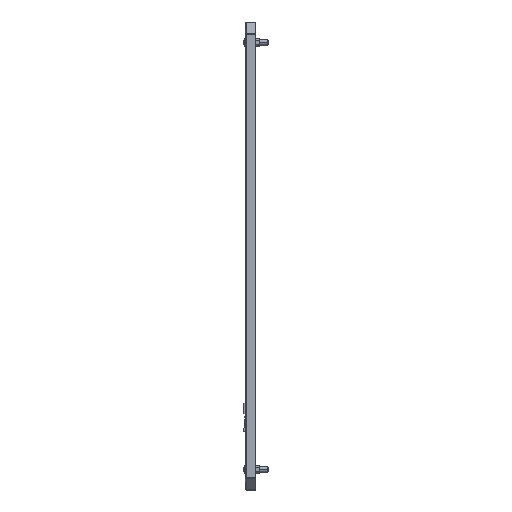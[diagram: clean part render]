
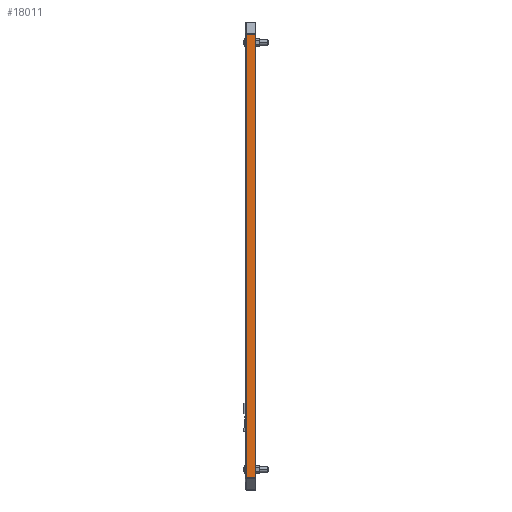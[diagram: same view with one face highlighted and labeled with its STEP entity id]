
A CAD part, left-side view. The second image highlights one B-rep face of the part: STEP entity #18011.
In plain terms, the highlighted planar face has unit normal (-1, 0, 0).
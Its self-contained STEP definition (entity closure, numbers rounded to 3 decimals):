
#3510 = ORIENTED_EDGE ( 'NONE', *, *, #25646, .F. ) ;
#3512 = ORIENTED_EDGE ( 'NONE', *, *, #25642, .F. ) ;
#3514 = ORIENTED_EDGE ( 'NONE', *, *, #25650, .T. ) ;
#3516 = ORIENTED_EDGE ( 'NONE', *, *, #25649, .F. ) ;
#4319 = VERTEX_POINT ( 'NONE', #39044 ) ;
#9613 = VECTOR ( 'NONE', #23293, 1000. ) ;
#9617 = VECTOR ( 'NONE', #23317, 1000. ) ;
#9620 = VECTOR ( 'NONE', #23335, 1000. ) ;
#9621 = VECTOR ( 'NONE', #23341, 1000. ) ;
#17102 = CARTESIAN_POINT ( 'NONE',  ( -300., -18., -379.395 ) ) ;
#17125 = CARTESIAN_POINT ( 'NONE',  ( -300., -2.4, -379.395 ) ) ;
#17178 = CARTESIAN_POINT ( 'NONE',  ( -300., -2.4, 379.395 ) ) ;
#18011 = ADVANCED_FACE ( 'NONE', ( #18252 ), #28476, .F. ) ;
#18252 = FACE_OUTER_BOUND ( 'NONE', #38619, .T. ) ;
#18258 = AXIS2_PLACEMENT_3D ( 'NONE', #28477, #28478, #28479 ) ;
#23289 = LINE ( 'NONE', #23291, #9613 ) ;
#23291 = CARTESIAN_POINT ( 'NONE',  ( -300., -2.4, 380. ) ) ;
#23293 = DIRECTION ( 'NONE',  ( 0., 0., 1. ) ) ;
#23313 = LINE ( 'NONE', #23315, #9617 ) ;
#23315 = CARTESIAN_POINT ( 'NONE',  ( -300., -18., 380. ) ) ;
#23317 = DIRECTION ( 'NONE',  ( 0., 0., -1. ) ) ;
#23331 = LINE ( 'NONE', #23333, #9620 ) ;
#23333 = CARTESIAN_POINT ( 'NONE',  ( -300., -1.2, 379.395 ) ) ;
#23335 = DIRECTION ( 'NONE',  ( 0., -1., 0. ) ) ;
#23337 = LINE ( 'NONE', #23339, #9621 ) ;
#23339 = CARTESIAN_POINT ( 'NONE',  ( -300., -18., -379.395 ) ) ;
#23341 = DIRECTION ( 'NONE',  ( 0., -1., 0. ) ) ;
#25642 = EDGE_CURVE ( 'NONE', #39978, #40038, #23289, .T. ) ;
#25646 = EDGE_CURVE ( 'NONE', #4319, #39951, #23313, .T. ) ;
#25649 = EDGE_CURVE ( 'NONE', #40038, #4319, #23331, .T. ) ;
#25650 = EDGE_CURVE ( 'NONE', #39978, #39951, #23337, .T. ) ;
#28476 = PLANE ( 'NONE',  #18258 ) ;
#28477 = CARTESIAN_POINT ( 'NONE',  ( -300., -18., 380. ) ) ;
#28478 = DIRECTION ( 'NONE',  ( 1., 0., 0. ) ) ;
#28479 = DIRECTION ( 'NONE',  ( 0., 1., 0. ) ) ;
#38619 = EDGE_LOOP ( 'NONE', ( #3512, #3514, #3510, #3516 ) ) ;
#39044 = CARTESIAN_POINT ( 'NONE',  ( -300., -18., 379.395 ) ) ;
#39951 = VERTEX_POINT ( 'NONE', #17102 ) ;
#39978 = VERTEX_POINT ( 'NONE', #17125 ) ;
#40038 = VERTEX_POINT ( 'NONE', #17178 ) ;
